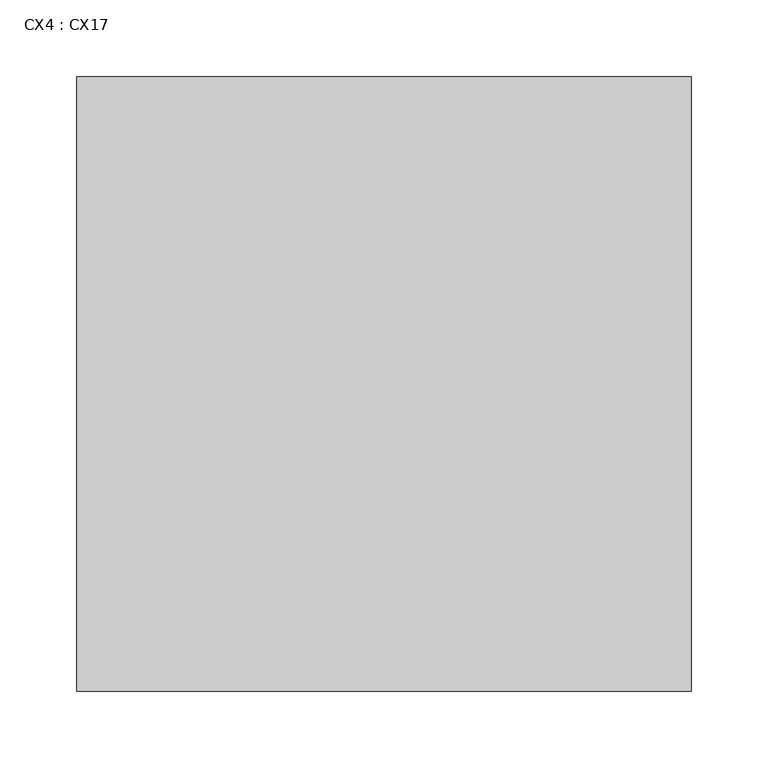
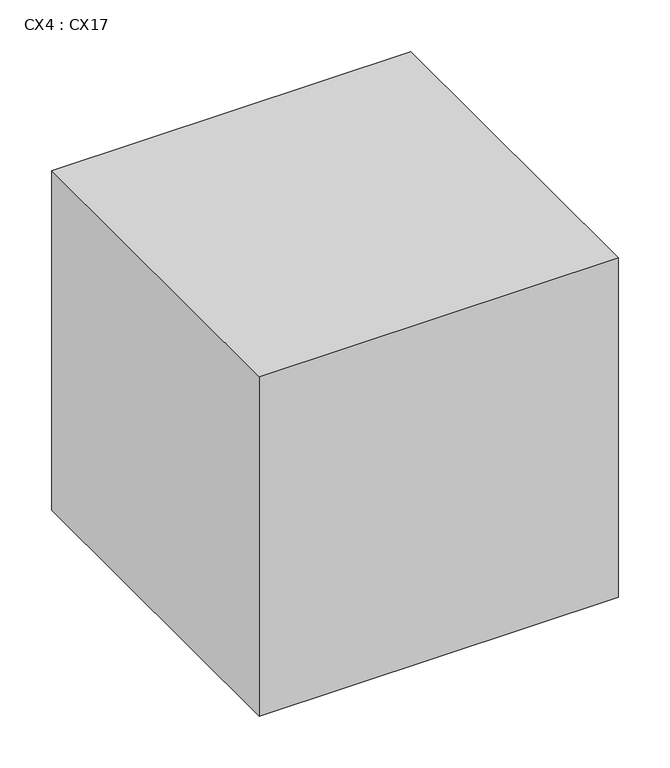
"""IFC4 building model written with IfcOpenShell, lengths in millimetres: proxy geometry, CX4 : CX17."""

from ifc_helpers import new_model, si_unit, frame, origin, place, context, project, spatial, polyline, outline, extrude, source, transform, mapped, element, save


def cx4_cx17_f6a05cdf(model_context):
    return source(origin(), model_context, "Body", "SweptSolid", [
        extrude(outline(polyline([(5861.0646511, 6937.1121745), (5861.0646511, 6537.1121745), (5461.0646511, 6537.1121745), (5461.0646511, 6937.1121745), (5861.0646511, 6937.1121745)])), frame((0.0, 0.0, 1130.0), z_axis=(0.0, 0.0, 1.0), x_axis=(1.0, 0.0, 0.0)), (0.0, 0.0, 1.0), 400.0),
    ])


if __name__ == "__main__":
    model = new_model("IFC4")
    model_context = context("Model", 3, world=origin())
    ifc_project = project(units=[si_unit("LENGTHUNIT", "METRE", prefix="MILLI")], contexts=[model_context])
    site = spatial("IfcSite", under=ifc_project)
    building = spatial("IfcBuilding", under=site)
    placement = place(None, origin())
    cx4_cx17_shape = cx4_cx17_f6a05cdf(model_context)
    element("IfcBuildingElementProxy", 1, Name="CX4 : CX17", ObjectType="CX4 : CX17", at=placement, inside=building, context=model_context, shape_type="MappedRepresentation", body=[
        mapped(cx4_cx17_shape, transform((0.0, 0.0, 0.0), x_axis=(1.0, 0.0, 0.0), y_axis=(0.0, 1.0, 0.0), z_axis=(0.0, 0.0, 1.0))),
    ])
    save(model, "model.ifc")
